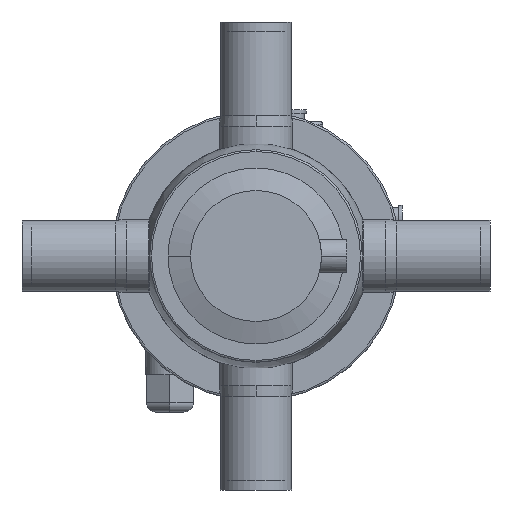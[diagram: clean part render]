
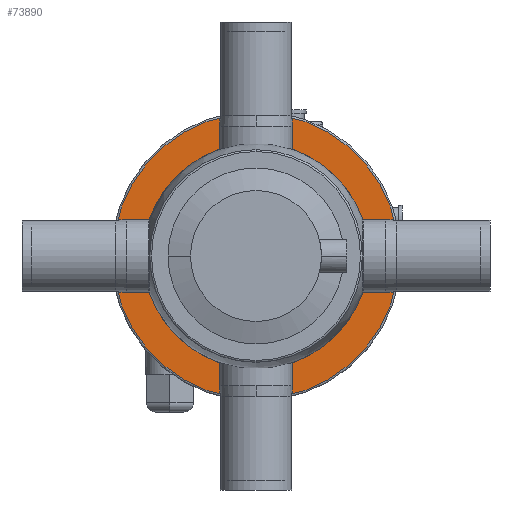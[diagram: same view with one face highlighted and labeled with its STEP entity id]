
A CAD part, front view. The second image highlights one B-rep face of the part: STEP entity #73890.
In plain terms, the highlighted planar face has unit normal (0, -1, 0).
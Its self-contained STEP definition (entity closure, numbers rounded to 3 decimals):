
#71890=CARTESIAN_POINT('',(-58.05,6.,0.));
#71900=VERTEX_POINT('',#71890);
#71930=CARTESIAN_POINT('',(0.,6.,0.));
#71940=DIRECTION('',(0.,1.,0.));
#71950=DIRECTION('',(1.,0.,0.));
#71960=AXIS2_PLACEMENT_3D('',#71930,#71940,#71950);
#71970=CIRCLE('',#71960,58.05);
#71980=CARTESIAN_POINT('',(58.05,6.,0.));
#71990=VERTEX_POINT('',#71980);
#72000=EDGE_CURVE('',#71900,#71990,#71970,.T.);
#73640=CARTESIAN_POINT('',(66.7,6.,0.));
#73650=DIRECTION('',(-0.,1.,0.));
#73660=DIRECTION('',(1.,0.,0.));
#73670=AXIS2_PLACEMENT_3D('',#73640,#73650,#73660);
#73680=PLANE('',#73670);
#73690=EDGE_CURVE('',#71990,#71900,#71970,.T.);
#73700=ORIENTED_EDGE('',*,*,#73690,.T.);
#73710=ORIENTED_EDGE('',*,*,#72000,.T.);
#73720=EDGE_LOOP('',(#73710,#73700));
#73730=FACE_BOUND('',#73720,.T.);
#73740=CARTESIAN_POINT('',(0.,6.,0.));
#73750=DIRECTION('',(0.,1.,0.));
#73760=DIRECTION('',(1.,0.,0.));
#73770=AXIS2_PLACEMENT_3D('',#73740,#73750,#73760);
#73780=CIRCLE('',#73770,76.5);
#73790=CARTESIAN_POINT('',(-76.5,6.,0.));
#73800=VERTEX_POINT('',#73790);
#73810=CARTESIAN_POINT('',(76.5,6.,0.));
#73820=VERTEX_POINT('',#73810);
#73830=EDGE_CURVE('',#73800,#73820,#73780,.T.);
#73840=ORIENTED_EDGE('',*,*,#73830,.F.);
#73850=EDGE_CURVE('',#73820,#73800,#73780,.T.);
#73860=ORIENTED_EDGE('',*,*,#73850,.F.);
#73870=EDGE_LOOP('',(#73860,#73840));
#73880=FACE_OUTER_BOUND('',#73870,.T.);
#73890=ADVANCED_FACE('',(#73730,#73880),#73680,.F.);
